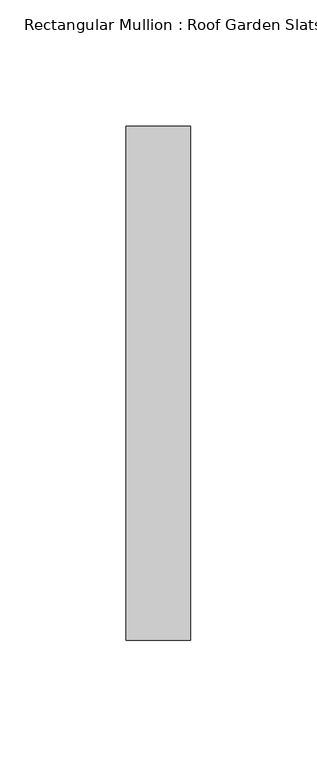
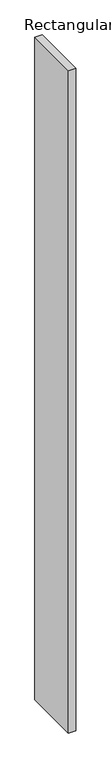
"""IFC4 building model written with IfcOpenShell, lengths in millimetres: member geometry, Rectangular Mullion : Roof Garden Slats."""

import ifcopenshell
import ifcopenshell.guid

model = None  # the IFC model being written
_history = None  # IfcOwnerHistory: only IFC2X3 demands one
_inside = {}  # id of a spatial element -> (the spatial element, [elements in it])
_under = {}  # id of a project, library or spatial element -> (it, [spatial elements below it])
_declared = {}  # id of a project -> (the project, [libraries it declares])
_typed = {}  # id of a type object -> (the type object, [elements of that type])
_made_of = {}  # id of a material, layer set ... -> (it, [elements and type objects made of it])


def new_model(schema):
    """Start an empty IFC model of exactly this schema.

    Asked for "IFC4X3", IfcOpenShell would pick the latest addendum, in which some entities
    have other attributes; the version numbers below select the first issue.
    IFC2X3 requires an IfcOwnerHistory on every rooted entity: one is made here for all.
    """
    global model, _history
    if schema == "IFC4X3":
        model = ifcopenshell.file(schema_version=(4, 3, 0, 0))
    else:
        model = ifcopenshell.file(schema=schema)
    _inside.clear()
    _under.clear()
    _declared.clear()
    _typed.clear()
    _made_of.clear()
    _history = None
    if model.schema == "IFC2X3":
        org = make("IfcOrganization", Name="unknown")
        user = make(
            "IfcPersonAndOrganization",
            ThePerson=make("IfcPerson", FamilyName="unknown"),
            TheOrganization=org,
        )
        app = make(
            "IfcApplication",
            ApplicationDeveloper=org,
            Version="unknown",
            ApplicationFullName="unknown",
            ApplicationIdentifier="unknown",
        )
        _history = make(
            "IfcOwnerHistory",
            OwningUser=user,
            OwningApplication=app,
            ChangeAction="ADDED",
            CreationDate=0,
        )
    return model


def make(cls, **values):
    """One entity of the class cls with the attributes given. An attribute that is None is left unset."""
    return model.create_entity(
        cls, **{name: value for name, value in values.items() if value is not None}
    )


def rooted(cls, **values):
    """An entity with a GlobalId (a new one), such as an element, a storey or a relation."""
    return make(cls, GlobalId=ifcopenshell.guid.new(), OwnerHistory=_history, **values)


def si_unit(unit_type, name, prefix=None):
    """IfcSIUnit, for example si_unit("LENGTHUNIT", "METRE", prefix="MILLI")."""
    return make("IfcSIUnit", UnitType=unit_type, Prefix=prefix, Name=name)


def assignment(units):
    """IfcUnitAssignment: the units of a project."""
    return None if units is None else make("IfcUnitAssignment", Units=units)


def point(xyz):
    """IfcCartesianPoint."""
    return None if xyz is None else make("IfcCartesianPoint", Coordinates=xyz)


def direction(xyz):
    """IfcDirection."""
    return None if xyz is None else make("IfcDirection", DirectionRatios=xyz)


def frame(location, z_axis=None, x_axis=None):
    """IfcAxis2Placement3D, a coordinate frame: its origin and axes. An axis left out is left unset."""
    return make(
        "IfcAxis2Placement3D",
        Location=point(location),
        Axis=direction(z_axis),
        RefDirection=direction(x_axis),
    )


def origin():
    """The frame at (0, 0, 0) with its axes left unset."""
    return frame((0.0, 0.0, 0.0))


def place(relative_to, where):
    """IfcLocalPlacement: puts the frame where relative to a parent placement (None: the world)."""
    return make(
        "IfcLocalPlacement", PlacementRelTo=relative_to, RelativePlacement=where
    )


def context(
    kind, dimensions, precision=None, world=None, true_north=None, identifier=None
):
    """IfcGeometricRepresentationContext, for example the 3D "Model" context."""
    return make(
        "IfcGeometricRepresentationContext",
        ContextIdentifier=identifier,
        ContextType=kind,
        CoordinateSpaceDimension=dimensions,
        Precision=precision,
        WorldCoordinateSystem=world,
        TrueNorth=true_north,
    )


def project(units=None, contexts=None):
    """IfcProject with its units and contexts."""
    return rooted(
        "IfcProject",
        Name="project",
        RepresentationContexts=contexts,
        UnitsInContext=assignment(units),
    )


def spatial(cls, under=None, at=None, **own):
    """A site, building, storey or space (cls), placed at a placement, below another one or the project."""
    s = rooted(cls, ObjectPlacement=at, **own)
    if under is not None:
        _under.setdefault(under.id(), (under, []))[1].append(s)
    return s


def polyline(points):
    """IfcPolyline through the points."""
    return make("IfcPolyline", Points=[point(p) for p in points])


def outline(outer, holes=None, kind="AREA"):
    """IfcArbitraryClosedProfileDef: a profile drawn as a closed curve; with holes, ...WithVoids."""
    if holes is None:
        return make("IfcArbitraryClosedProfileDef", ProfileType=kind, OuterCurve=outer)
    return make(
        "IfcArbitraryProfileDefWithVoids",
        ProfileType=kind,
        OuterCurve=outer,
        InnerCurves=holes,
    )


def extrude(swept, where, along, depth):
    """IfcExtrudedAreaSolid: the profile swept, set in the frame where, extruded along a direction by depth."""
    return make(
        "IfcExtrudedAreaSolid",
        SweptArea=swept,
        Position=where,
        ExtrudedDirection=direction(along),
        Depth=depth,
    )


def shape(context_of_items, identifier, shape_type, items):
    """IfcShapeRepresentation: the items that make up one representation, for example the "Body"."""
    return make(
        "IfcShapeRepresentation",
        ContextOfItems=context_of_items,
        RepresentationIdentifier=identifier,
        RepresentationType=shape_type,
        Items=items,
    )


def source(mapping_origin, context_of_items, identifier, shape_type, items):
    """IfcRepresentationMap: a shape defined once, which mapped items show again and again."""
    return make(
        "IfcRepresentationMap",
        MappingOrigin=mapping_origin,
        MappedRepresentation=shape(context_of_items, identifier, shape_type, items),
    )


def transform(
    local_origin,
    x_axis=None,
    y_axis=None,
    z_axis=None,
    scale=None,
    scale2=None,
    scale3=None,
    uniform=True,
):
    """IfcCartesianTransformationOperator3D, or its non-uniform kind. x_axis, y_axis, z_axis: its Axis1, 2, 3."""
    if uniform:
        return make(
            "IfcCartesianTransformationOperator3D",
            Axis1=direction(x_axis),
            Axis2=direction(y_axis),
            LocalOrigin=point(local_origin),
            Scale=scale,
            Axis3=direction(z_axis),
        )
    return make(
        "IfcCartesianTransformationOperator3DnonUniform",
        Axis1=direction(x_axis),
        Axis2=direction(y_axis),
        LocalOrigin=point(local_origin),
        Scale=scale,
        Axis3=direction(z_axis),
        Scale2=scale2,
        Scale3=scale3,
    )


def mapped(mapping_source, mapping_target):
    """IfcMappedItem: shows the shape of a source again, moved by a transform."""
    return make(
        "IfcMappedItem", MappingSource=mapping_source, MappingTarget=mapping_target
    )


def made_of(thing, what):
    """Note that an element or type object is made of a material, layer set ...; save() writes the relation."""
    if what is not None:
        _made_of.setdefault(what.id(), (what, []))[1].append(thing)
    return thing


def element(
    cls,
    number,
    at=None,
    inside=None,
    cuts=None,
    type_object=None,
    material=None,
    context=None,
    identifier="Body",
    shape_type=None,
    held_by="IfcProductDefinitionShape",
    body=None,
    shapes=None,
    **own,
):
    """One element of the class cls, such as IfcWall. Its Tag is "e" and its number.

    at: its placement. inside: the storey or other place that contains it. cuts: it is an
    opening in that element (IfcRelVoidsElement). A single representation is given by context,
    identifier, shape_type and body (its items); several are given by shapes. held_by: the class
    of the entity that holds the representations. save() writes the other relations.
    """
    e = rooted(cls, Tag="e%d" % number, ObjectPlacement=at, **own)
    if body is not None:
        shapes = [shape(context, identifier, shape_type, body)]
    if shapes is not None:
        e.Representation = make(held_by, Representations=shapes)
    if inside is not None:
        _inside.setdefault(inside.id(), (inside, []))[1].append(e)
    if cuts is not None:
        rooted(
            "IfcRelVoidsElement", RelatingBuildingElement=cuts, RelatedOpeningElement=e
        )
    if type_object is not None:
        _typed.setdefault(type_object.id(), (type_object, []))[1].append(e)
    return made_of(e, material)


def aggregate(whole, parts):
    """IfcRelAggregates: a whole, such as a stair, and the parts it consists of."""
    return rooted("IfcRelAggregates", RelatingObject=whole, RelatedObjects=parts)


def save(model, path):
    """Write the relations noted so far, then the file.

    IfcRelAggregates (storeys below a building ...), IfcRelContainedInSpatialStructure (elements
    in a storey), IfcRelDefinesByType, IfcRelAssociatesMaterial and IfcRelDeclares: one each for
    every whole, place, type object, material and project.
    """
    for whole, parts in _under.values():
        aggregate(whole, parts)
    for where, things in _inside.values():
        rooted(
            "IfcRelContainedInSpatialStructure",
            RelatedElements=things,
            RelatingStructure=where,
        )
    for kind, things in _typed.values():
        rooted("IfcRelDefinesByType", RelatedObjects=things, RelatingType=kind)
    for what, things in _made_of.values():
        rooted("IfcRelAssociatesMaterial", RelatedObjects=things, RelatingMaterial=what)
    for by, libraries in _declared.values():
        rooted("IfcRelDeclares", RelatingContext=by, RelatedDefinitions=libraries)
    model.write(path)


def rectangular_mullion_roof_garden_slats_39b4344a(model_context):
    return source(origin(), model_context, "Body", "SweptSolid", [
        extrude(outline(polyline([(0.0, 139.7), (0.0, -63.5), (-25.4, -63.5), (-25.4, 139.7), (0.0, 139.7)])), frame((0.0, 0.0, -2445.8985526), z_axis=(0.0, 0.0, 1.0), x_axis=(1.0, 0.0, 0.0)), (0.0, 0.0, 1.0), 2445.8985526),
    ])


if __name__ == "__main__":
    model = new_model("IFC4")
    model_context = context("Model", 3, world=origin())
    ifc_project = project(units=[si_unit("LENGTHUNIT", "METRE", prefix="MILLI")], contexts=[model_context])
    site = spatial("IfcSite", under=ifc_project)
    building = spatial("IfcBuilding", under=site)
    placement = place(None, origin())
    rectangular_mullion_roof_garden_slats_shape = rectangular_mullion_roof_garden_slats_39b4344a(model_context)
    element("IfcMember", 1, ObjectType="Rectangular Mullion : Roof Garden Slats", at=placement, inside=building, context=model_context, shape_type="MappedRepresentation", body=[
        mapped(rectangular_mullion_roof_garden_slats_shape, transform((0.0, 0.0, 0.0), x_axis=(1.0, 0.0, 0.0), y_axis=(0.0, 1.0, 0.0), z_axis=(0.0, 0.0, 1.0))),
    ])
    save(model, "model.ifc")
